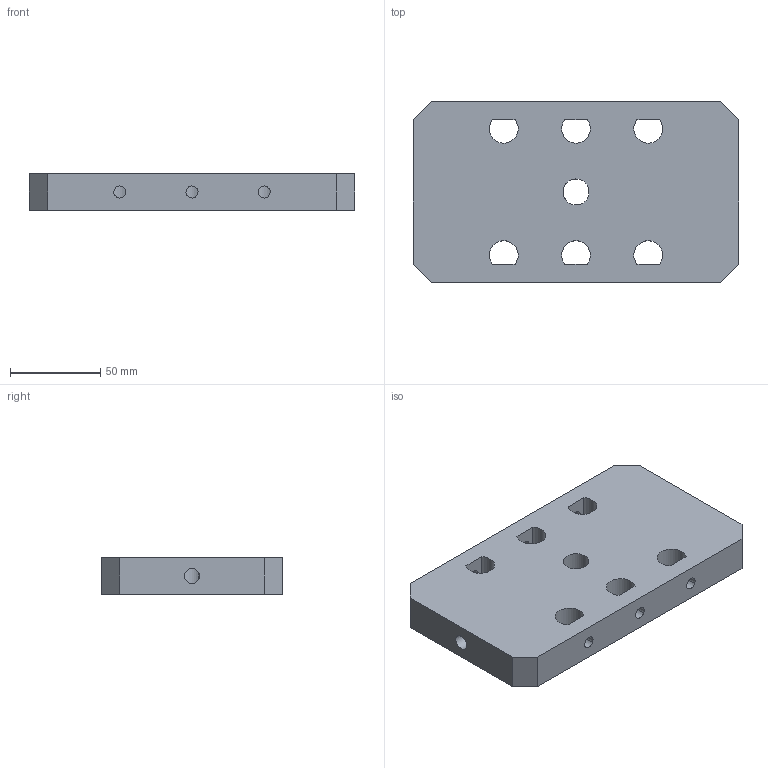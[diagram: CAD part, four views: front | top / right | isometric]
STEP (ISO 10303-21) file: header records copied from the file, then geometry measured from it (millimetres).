
FILE_DESCRIPTION(('CATIA V5 STEP Exchange'),'2;1');
FILE_NAME('G:\够快云库\系统集成开发部\1.部门成员\孙国\工装\速降阀寿命耐久\STP\GZ-SJNJ.02_V1 上固定座.stp','2021-05-28T06:51:11+00:00',('none'),('none'),'CATIA Version 5 Release 20 GA (IN-10)','CATIA V5 STEP AP214','none');
FILE_SCHEMA(('AUTOMOTIVE_DESIGN { 1 0 10303 214 1 1 1 1 }'));
Length unit declared in the file: millimetre
Products named in the file (1): 上固定座
Bounding box: 180 x 100 x 20 mm (x, y, z)
Volume: 325095.2 mm3; surface area: 53541.4 mm2
Topology: 1 solids, 1 shells, 38 faces, 111 edges, 74 vertices
Faces by surface type: cylinder 22, plane 16
Entity records: 1290 total; most frequent: CARTESIAN_POINT 257, ORIENTED_EDGE 222, DIRECTION 159, EDGE_CURVE 111, VERTEX_POINT 74, AXIS2_PLACEMENT_3D 69, VECTOR 65, EDGE_LOOP 65
